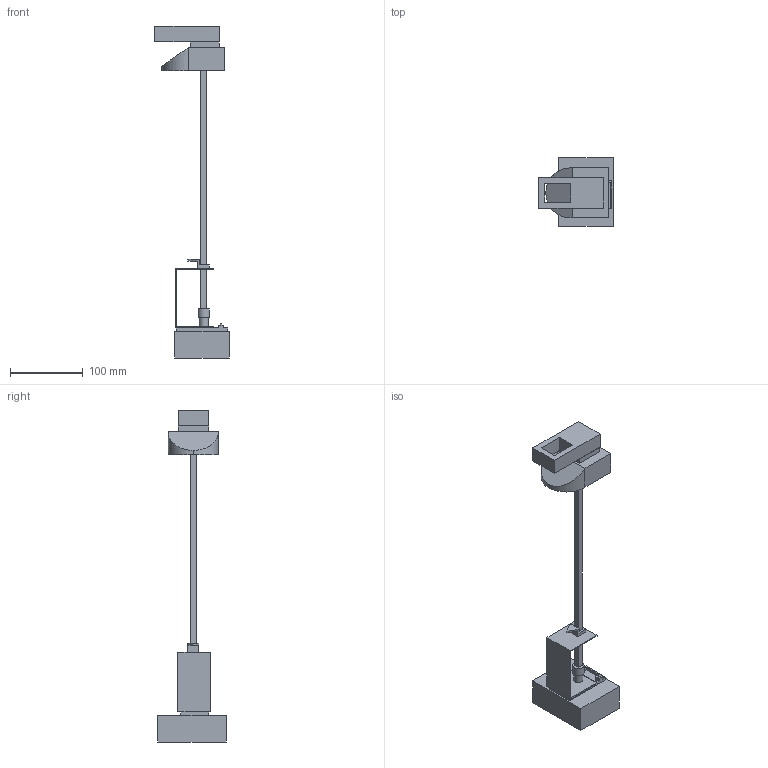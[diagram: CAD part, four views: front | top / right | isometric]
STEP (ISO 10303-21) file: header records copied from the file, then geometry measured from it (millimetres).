
FILE_DESCRIPTION (( 'STEP AP214' ), '1' );
FILE_NAME ('OptiMat E250 ñ ðóêîÿòêîé ïîâîðîòíîé âûíîñíîé.STEP', '2023-11-09T12:41:08', ( '' ), ( '' ), 'SwSTEP 2.0', 'SolidWorks 2018', '' );
FILE_SCHEMA (( 'AUTOMOTIVE_DESIGN' ));
Length unit declared in the file: millimetre
Products named in the file (2): OptiMat E100_嚆镡獱 喈猸狅 ㈦岘狅; OptiMat E250 ñ ðóêîÿòêîé ïîâîðîòíîé âûíîñíîé
Assembly tree (1 placements, depth 2):
  OptiMat E250 ñ ðóêîÿòêîé ïîâîðîòíîé âûíîñíîé
    OptiMat E100_嚆镡獱 喈猸狅 ㈦岘狅
Bounding box: 102.55 x 94.05 x 457.4 mm (x, y, z)
Volume: 535798.2 mm3; surface area: 84230 mm2
Topology: 1 solids, 1 shells, 82 faces, 209 edges, 138 vertices
Faces by surface type: plane 76, cylinder 6
Entity records: 2505 total; most frequent: CARTESIAN_POINT 439, ORIENTED_EDGE 418, DIRECTION 389, EDGE_CURVE 209, LINE 197, VECTOR 197, VERTEX_POINT 138, AXIS2_PLACEMENT_3D 96
